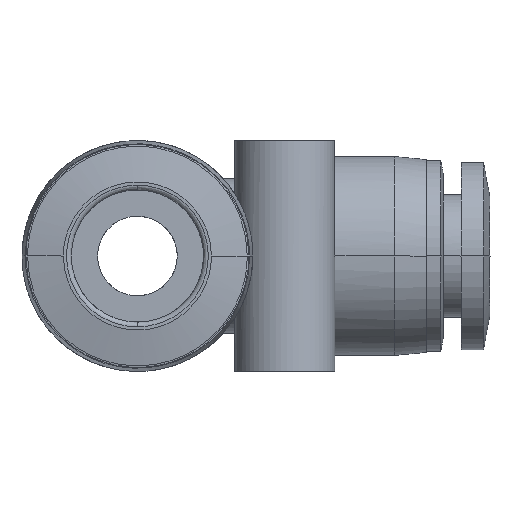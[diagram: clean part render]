
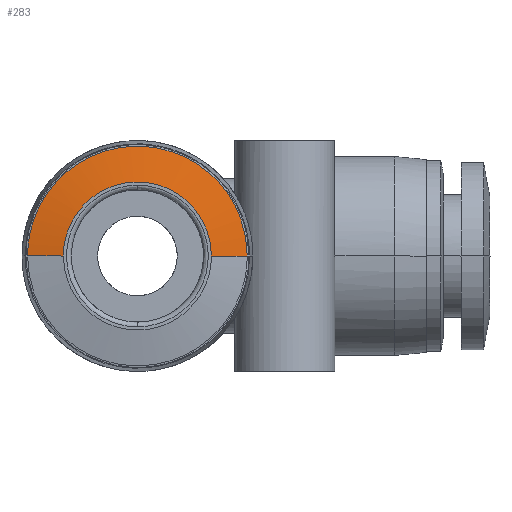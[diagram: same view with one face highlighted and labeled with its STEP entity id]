
A CAD part, front view. The second image highlights one B-rep face of the part: STEP entity #283.
In plain terms, the highlighted conical face has half-angle 79.919 degrees and reference radius 5.775 mm.
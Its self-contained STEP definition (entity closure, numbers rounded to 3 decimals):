
#118 = LINE ( 'NONE', #752, #1690 ) ;
#143 = CARTESIAN_POINT ( 'NONE',  ( -6.9, -35.35, 0.903 ) ) ;
#283 = ADVANCED_FACE ( 'NONE', ( #5759 ), #6226, .T. ) ;
#397 = B_SPLINE_CURVE_WITH_KNOTS ( 'NONE', 3,
 ( #1407, #6937, #687, #3422, #1497, #2707, #3560, #4774, #5461, #2076, #6217, #1450, #4150, #4965, #2033, #6313, #143, #821 ),
 .UNSPECIFIED., .F., .F.,
 ( 4, 2, 2, 2, 2, 2, 2, 2, 4 ),
 ( 0.5, 0.563, 0.625, 0.688, 0.75, 0.813, 0.875, 0.938, 1. ),
 .UNSPECIFIED. ) ;
#599 = CARTESIAN_POINT ( 'NONE',  ( 4.65, -35.75, 0. ) ) ;
#606 = VERTEX_POINT ( 'NONE', #599 ) ;
#687 = CARTESIAN_POINT ( 'NONE',  ( 6.72, -35.35, 1.806 ) ) ;
#752 = CARTESIAN_POINT ( 'NONE',  ( 5.775, -35.55, 0. ) ) ;
#821 = CARTESIAN_POINT ( 'NONE',  ( -6.9, -35.35, 0. ) ) ;
#849 = VECTOR ( 'NONE', #4504, 1000. ) ;
#858 = CARTESIAN_POINT ( 'NONE',  ( -6.9, -35.35, 0. ) ) ;
#1006 = CARTESIAN_POINT ( 'NONE',  ( -5.775, -35.55, 0. ) ) ;
#1088 = CARTESIAN_POINT ( 'NONE',  ( 4.65, -35.75, 0. ) ) ;
#1134 = CARTESIAN_POINT ( 'NONE',  ( 2.857, -35.75, 3.719 ) ) ;
#1178 = CARTESIAN_POINT ( 'NONE',  ( -3.719, -35.75, 2.857 ) ) ;
#1273 = CARTESIAN_POINT ( 'NONE',  ( -4.65, -35.75, 0.611 ) ) ;
#1349 = ORIENTED_EDGE ( 'NONE', *, *, #4857, .F. ) ;
#1407 = CARTESIAN_POINT ( 'NONE',  ( 6.9, -35.35, 0. ) ) ;
#1450 = CARTESIAN_POINT ( 'NONE',  ( -3.475, -35.35, 6.029 ) ) ;
#1497 = CARTESIAN_POINT ( 'NONE',  ( 5.518, -35.35, 4.24 ) ) ;
#1690 = VECTOR ( 'NONE', #2867, 1000. ) ;
#1704 = CARTESIAN_POINT ( 'NONE',  ( 6.9, -35.35, 0. ) ) ;
#1715 = ORIENTED_EDGE ( 'NONE', *, *, #8232, .T. ) ;
#1804 = CARTESIAN_POINT ( 'NONE',  ( 4.063, -35.75, 2.343 ) ) ;
#2033 = CARTESIAN_POINT ( 'NONE',  ( -6.029, -35.35, 3.475 ) ) ;
#2076 = CARTESIAN_POINT ( 'NONE',  ( -0.903, -35.35, 6.9 ) ) ;
#2476 = CARTESIAN_POINT ( 'NONE',  ( -4.063, -35.75, 2.343 ) ) ;
#2570 = CARTESIAN_POINT ( 'NONE',  ( -4.53, -35.75, 1.216 ) ) ;
#2707 = CARTESIAN_POINT ( 'NONE',  ( 4.24, -35.35, 5.518 ) ) ;
#2768 = CARTESIAN_POINT ( 'NONE',  ( -4.65, -35.75, 0. ) ) ;
#2867 = DIRECTION ( 'NONE',  ( 0.985, 0.175, 0. ) ) ;
#2946 = CARTESIAN_POINT ( 'NONE',  ( 4.65, -35.75, 0.61 ) ) ;
#3080 = DIRECTION ( 'NONE',  ( 0., 1., 0. ) ) ;
#3422 = CARTESIAN_POINT ( 'NONE',  ( 6.029, -35.35, 3.475 ) ) ;
#3560 = CARTESIAN_POINT ( 'NONE',  ( 3.475, -35.35, 6.029 ) ) ;
#3711 = ORIENTED_EDGE ( 'NONE', *, *, #4982, .T. ) ;
#4150 = CARTESIAN_POINT ( 'NONE',  ( -4.24, -35.35, 5.518 ) ) ;
#4249 = VERTEX_POINT ( 'NONE', #1704 ) ;
#4424 = LINE ( 'NONE', #1006, #849 ) ;
#4504 = DIRECTION ( 'NONE',  ( -0.985, 0.175, 0. ) ) ;
#4774 = CARTESIAN_POINT ( 'NONE',  ( 1.806, -35.35, 6.72 ) ) ;
#4798 = EDGE_CURVE ( 'NONE', #7057, #8690, #4424, .T. ) ;
#4857 = EDGE_CURVE ( 'NONE', #606, #7057, #5034, .T. ) ;
#4965 = CARTESIAN_POINT ( 'NONE',  ( -5.518, -35.35, 4.24 ) ) ;
#4982 = EDGE_CURVE ( 'NONE', #4249, #8690, #397, .T. ) ;
#5034 = B_SPLINE_CURVE_WITH_KNOTS ( 'NONE', 3,
 ( #1088, #2946, #5912, #1804, #5233, #1134, #5281, #8832, #6629, #5417, #8644, #5955, #6675, #1178, #2476, #2570, #1273, #7968 ),
 .UNSPECIFIED., .F., .F.,
 ( 4, 2, 2, 2, 2, 2, 2, 2, 4 ),
 ( 0.5, 0.563, 0.625, 0.688, 0.75, 0.813, 0.875, 0.938, 1. ),
 .UNSPECIFIED. ) ;
#5233 = CARTESIAN_POINT ( 'NONE',  ( 3.719, -35.75, 2.857 ) ) ;
#5247 = CARTESIAN_POINT ( 'NONE',  ( 0., -35.55, 0. ) ) ;
#5281 = CARTESIAN_POINT ( 'NONE',  ( 2.343, -35.75, 4.063 ) ) ;
#5417 = CARTESIAN_POINT ( 'NONE',  ( -0.61, -35.75, 4.65 ) ) ;
#5461 = CARTESIAN_POINT ( 'NONE',  ( 0.903, -35.35, 6.9 ) ) ;
#5759 = FACE_OUTER_BOUND ( 'NONE', #8119, .T. ) ;
#5912 = CARTESIAN_POINT ( 'NONE',  ( 4.529, -35.75, 1.216 ) ) ;
#5925 = DIRECTION ( 'NONE',  ( -1., 0., 0. ) ) ;
#5955 = CARTESIAN_POINT ( 'NONE',  ( -2.343, -35.75, 4.063 ) ) ;
#6217 = CARTESIAN_POINT ( 'NONE',  ( -1.806, -35.35, 6.72 ) ) ;
#6226 = CONICAL_SURFACE ( 'NONE', #8684, 5.775, 1.395 ) ;
#6313 = CARTESIAN_POINT ( 'NONE',  ( -6.72, -35.35, 1.806 ) ) ;
#6629 = CARTESIAN_POINT ( 'NONE',  ( 0.61, -35.75, 4.65 ) ) ;
#6675 = CARTESIAN_POINT ( 'NONE',  ( -2.857, -35.75, 3.719 ) ) ;
#6937 = CARTESIAN_POINT ( 'NONE',  ( 6.9, -35.35, 0.903 ) ) ;
#7057 = VERTEX_POINT ( 'NONE', #2768 ) ;
#7473 = ORIENTED_EDGE ( 'NONE', *, *, #4798, .F. ) ;
#7968 = CARTESIAN_POINT ( 'NONE',  ( -4.65, -35.75, 0. ) ) ;
#8119 = EDGE_LOOP ( 'NONE', ( #1349, #1715, #3711, #7473 ) ) ;
#8232 = EDGE_CURVE ( 'NONE', #606, #4249, #118, .T. ) ;
#8644 = CARTESIAN_POINT ( 'NONE',  ( -1.216, -35.75, 4.529 ) ) ;
#8684 = AXIS2_PLACEMENT_3D ( 'NONE', #5247, #3080, #5925 ) ;
#8690 = VERTEX_POINT ( 'NONE', #858 ) ;
#8832 = CARTESIAN_POINT ( 'NONE',  ( 1.216, -35.75, 4.53 ) ) ;
